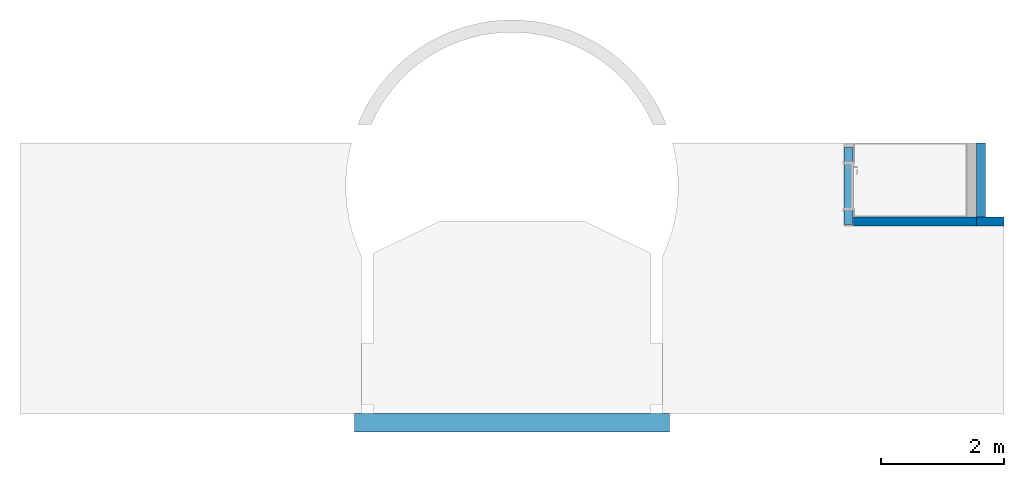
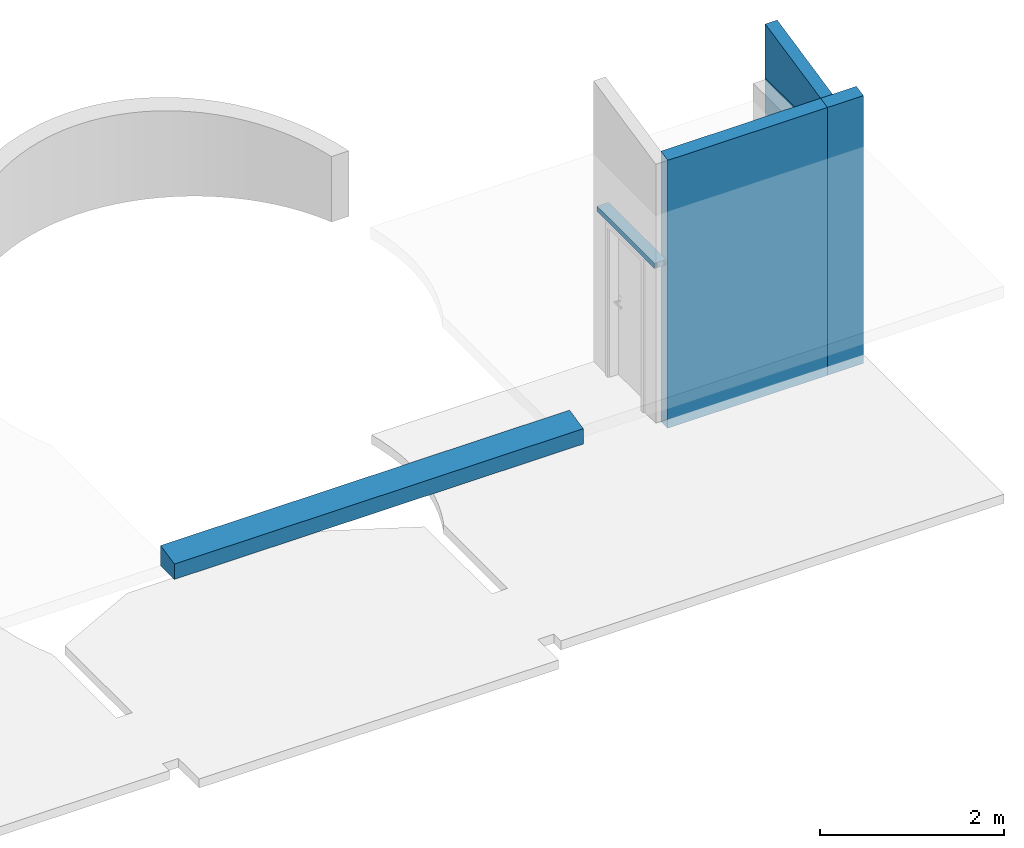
# One storey, part 1 of 5: 5 walls, 1 beam.
"""IFC4 building model written with IfcOpenShell, lengths in millimetres."""

from ifc_helpers import new_model, entity, si_unit, converted_unit, derived_unit, direction, frame, origin_with_axes, place, context, subcontext, project, spatial, polygons, source, transform, mapped, material, constituent, constituent_set, type_object, element, save


model = new_model("IFC4")

# Units and contexts
model_context = context("Model", 3, precision=0.01, world=origin_with_axes(), true_north=direction((0.0, 1.0)))
body_context = subcontext(model_context, "Body", "Model", "MODEL_VIEW")
ifc_project = project(units=[si_unit("LENGTHUNIT", "METRE", prefix="MILLI"), si_unit("AREAUNIT", "SQUARE_METRE"), si_unit("VOLUMEUNIT", "CUBIC_METRE"), converted_unit("PLANEANGLEUNIT", "DEGREE", entity("IfcPlaneAngleMeasure", 0.0174532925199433), si_unit("PLANEANGLEUNIT", "RADIAN"), dimensions=[0, 0, 0, 0, 0, 0, 0]), converted_unit("TIMEUNIT", "Year", entity("IfcTimeMeasure", 31557600.0), si_unit("TIMEUNIT", "SECOND"), dimensions=[0, 0, 1, 0, 0, 0, 0]), si_unit("MASSUNIT", "GRAM", prefix="KILO"), si_unit("THERMODYNAMICTEMPERATUREUNIT", "DEGREE_CELSIUS"), si_unit("LUMINOUSINTENSITYUNIT", "LUMEN"), si_unit("ENERGYUNIT", "JOULE", prefix="MEGA"), derived_unit("THERMALCONDUCTANCEUNIT", [(si_unit("POWERUNIT", "WATT"), 1), (si_unit("LENGTHUNIT", "METRE"), -1), (si_unit("THERMODYNAMICTEMPERATUREUNIT", "KELVIN"), -1)]), derived_unit("SPECIFICHEATCAPACITYUNIT", [(si_unit("ENERGYUNIT", "JOULE"), 1), (si_unit("MASSUNIT", "GRAM", prefix="KILO"), -1), (si_unit("THERMODYNAMICTEMPERATUREUNIT", "KELVIN"), -1)]), derived_unit("MASSDENSITYUNIT", [(si_unit("MASSUNIT", "GRAM", prefix="KILO"), 1), (si_unit("VOLUMEUNIT", "CUBIC_METRE"), -1)])], contexts=[model_context])

# Site, building, storey
site_placement = place(None, origin_with_axes())
site = spatial("IfcSite", under=ifc_project, at=site_placement, Name="Exteriér", CompositionType="ELEMENT")
building_placement = place(site_placement, origin_with_axes())
building = spatial("IfcBuilding", under=site, at=building_placement, Name="Univerzitní lezecké centrum", CompositionType="ELEMENT")
storey_placement = place(building_placement, frame((0.0, 0.0, 9600.000000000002), z_axis=(0.0, 0.0, 1.0), x_axis=(1.0, 0.0, 0.0)))
storey = spatial("IfcBuildingStorey", under=building, at=storey_placement, Name="4.NP", CompositionType="ELEMENT", Elevation=9600.0)

# Beam
beam_type = type_object("IfcBeamType", Name="PTH Překlad KP 11,5 a 14,5", PredefinedType="BEAM")
shared_shape = source(origin_with_axes(), body_context, "Body", "Tessellation", [
    polygons([(-625.0, 44.3486623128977, 71.00000000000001), (-625.0, 0.0, 71.00000000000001), (625.0, 0.0, 71.00000000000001), (625.0, 44.34866231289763, 71.00000000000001), (-625.0, 44.34866231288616, 36.49999605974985), (-625.0, 46.47223501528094, 31.73716465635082), (-625.0, 49.39641603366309, 27.4240948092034), (-625.0, 53.02998777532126, 23.69532943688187), (-625.0, 57.25960374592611, 20.66718452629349), (-625.0, 61.95332430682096, 18.4341207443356), (-625.0, 66.96473243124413, 17.06579680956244), (-625.0, 72.13750107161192, 16.60489654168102), (-625.0, 77.31026966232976, 17.06579737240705), (-625.0, 82.32167763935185, 18.43412185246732), (-625.0, 87.01539795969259, 20.66718614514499), (-625.0, 91.24501360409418, 23.69533151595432), (-625.0, 94.87858494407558, 27.42409728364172), (-625.0, 97.80276549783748, 31.7371674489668), (-625.0, 99.92633768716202, 36.49999908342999), (-625.0, 99.926337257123, 71.00000000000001), (-625.0, 144.274998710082, 71.0), (-625.0, 144.274998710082, 0.0), (-625.0, 0.0, 0.0), (-625.0, 11.4425, 10.49963740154), (-625.0, 33.3325, 10.49963740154), (-625.0, 33.3325, 30.49963740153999), (-625.0, 11.4425, 30.49963740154), (-625.0, 11.4425, 40.5), (-625.0, 33.3325, 40.5), (-625.0, 33.33250000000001, 60.5), (-625.0, 11.4425, 60.5), (-625.0, 132.83136377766, 10.49963740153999), (-625.0, 132.83136377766, 30.49963740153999), (-625.0, 110.94136377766, 30.49963740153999), (-625.0, 110.94136377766, 10.49963740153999), (-625.0, 110.94136377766, 60.49999999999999), (-625.0, 110.94136377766, 40.49999999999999), (-625.0, 132.83136377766, 40.49999999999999), (-625.0, 132.83136377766, 60.49999999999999), (625.0, 0.0, 0.0), (625.0, 144.2749987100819, 0.0), (625.0, 144.2749987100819, 71.0), (625.0, 99.92633725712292, 71.00000000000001), (625.0, 99.92633768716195, 36.49999908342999), (625.0, 97.80276549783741, 31.7371674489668), (625.0, 94.87858494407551, 27.42409728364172), (625.0, 91.24501360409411, 23.69533151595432), (625.0, 87.01539795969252, 20.66718614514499), (625.0, 82.32167763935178, 18.43412185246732), (625.0, 77.31026966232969, 17.06579737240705), (625.0, 72.13750107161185, 16.60489654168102), (625.0, 66.96473243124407, 17.06579680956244), (625.0, 61.95332430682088, 18.4341207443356), (625.0, 57.25960374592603, 20.66718452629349), (625.0, 53.02998777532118, 23.69532943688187), (625.0, 49.39641603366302, 27.4240948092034), (625.0, 46.47223501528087, 31.73716465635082), (625.0, 44.34866231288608, 36.49999605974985), (625.0, 11.44249999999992, 10.49963740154), (625.0, 11.44249999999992, 30.49963740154), (625.0, 33.33249999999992, 30.49963740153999), (625.0, 33.33249999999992, 10.49963740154), (625.0, 11.44249999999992, 40.5), (625.0, 11.44249999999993, 60.5), (625.0, 33.33249999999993, 60.5), (625.0, 33.33249999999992, 40.5), (625.0, 132.8313637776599, 10.49963740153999), (625.0, 110.9413637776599, 10.49963740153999), (625.0, 110.9413637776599, 30.49963740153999), (625.0, 132.8313637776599, 30.49963740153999), (625.0, 110.9413637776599, 60.49999999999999), (625.0, 132.8313637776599, 60.49999999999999), (625.0, 132.8313637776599, 40.49999999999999), (625.0, 110.9413637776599, 40.49999999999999)], [[[1, 2, 3, 4]], [[1, 5, 6, 7, 8, 9, 10, 11, 12, 13, 14, 15, 16, 17, 18, 19, 20, 21, 22, 23, 2], [24, 25, 26, 27], [28, 29, 30, 31], [32, 33, 34, 35], [36, 37, 38, 39]], [[2, 23, 40, 3]], [[4, 3, 40, 41, 42, 43, 44, 45, 46, 47, 48, 49, 50, 51, 52, 53, 54, 55, 56, 57, 58], [59, 60, 61, 62], [63, 64, 65, 66], [67, 68, 69, 70], [71, 72, 73, 74]], [[5, 1, 4, 58]], [[6, 5, 58, 57]], [[7, 6, 57, 56]], [[8, 7, 56, 55]], [[9, 8, 55, 54]], [[10, 9, 54, 53]], [[11, 10, 53, 52]], [[12, 11, 52, 51]], [[13, 12, 51, 50]], [[14, 13, 50, 49]], [[15, 14, 49, 48]], [[16, 15, 48, 47]], [[17, 16, 47, 46]], [[18, 17, 46, 45]], [[19, 18, 45, 44]], [[20, 19, 44, 43]], [[21, 20, 43, 42]], [[22, 21, 42, 41]], [[23, 22, 41, 40]], [[25, 24, 59, 62]], [[26, 25, 62, 61]], [[27, 26, 61, 60]], [[24, 27, 60, 59]], [[29, 28, 63, 66]], [[30, 29, 66, 65]], [[31, 30, 65, 64]], [[28, 31, 64, 63]], [[33, 32, 67, 70]], [[34, 33, 70, 69]], [[35, 34, 69, 68]], [[32, 35, 68, 67]], [[37, 36, 71, 74]], [[38, 37, 74, 73]], [[39, 38, 73, 72]], [[36, 39, 72, 71]]], closed=True),
    polygons([(-625.0, 44.34866231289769, 36.5), (-625.0, 46.47223492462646, 31.73716874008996), (625.0, 46.47223492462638, 31.73716874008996), (625.0, 44.34866231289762, 36.5), (-625.0, 44.3486623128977, 71.00000000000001), (-625.0, 99.926337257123, 71.00000000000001), (-625.0, 99.92633725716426, 36.50000000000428), (-625.0, 97.80276464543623, 31.7371687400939), (-625.0, 94.87858377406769, 27.42409899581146), (-625.0, 91.24501222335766, 23.69533367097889), (-625.0, 87.0153964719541, 20.66718874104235), (-625.0, 82.32167614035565, 18.43412486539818), (-625.0, 77.31026823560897, 17.06580075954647), (-625.0, 72.1374997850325, 16.60490024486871), (-625.0, 66.96473133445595, 17.06580075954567), (-625.0, 61.95332342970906, 18.4341248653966), (-625.0, 57.25960309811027, 20.66718874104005), (-625.0, 53.02998734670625, 23.69533367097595), (-625.0, 49.39641579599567, 27.42409899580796), (-625.0, 78.10749978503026, 42.49999925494), (-625.0, 78.01680207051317, 43.54188832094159), (-625.0, 77.74746473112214, 44.55212011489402), (-625.0, 77.30767144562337, 45.49999925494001), (-625.0, 76.71078511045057, 46.35672491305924), (-625.0, 75.97494181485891, 47.09626591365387), (-625.0, 75.12249978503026, 47.69615167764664), (-625.0, 74.17936004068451, 48.13815497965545), (-625.0, 73.17417940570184, 48.40884577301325), (-625.0, 72.13749978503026, 48.49999925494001), (-625.0, 71.1008201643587, 48.40884577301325), (-625.0, 70.09563952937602, 48.13815497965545), (-625.0, 69.15249978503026, 47.69615167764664), (-625.0, 68.30005775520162, 47.09626591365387), (-625.0, 67.56421445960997, 46.35672491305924), (-625.0, 66.96732812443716, 45.49999925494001), (-625.0, 66.5275348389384, 44.55212011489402), (-625.0, 66.25819749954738, 43.54188832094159), (-625.0, 66.16749978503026, 42.49999925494), (-625.0, 66.25819749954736, 41.45811018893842), (-625.0, 66.52753483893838, 40.44787839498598), (-625.0, 66.96732812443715, 39.49999925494), (-625.0, 67.56421445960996, 38.64327359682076), (-625.0, 68.3000577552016, 37.90373259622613), (-625.0, 69.15249978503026, 37.30384683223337), (-625.0, 70.09563952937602, 36.86184353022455), (-625.0, 71.1008201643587, 36.59115273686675), (-625.0, 72.13749978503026, 36.49999925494), (-625.0, 73.17417940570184, 36.59115273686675), (-625.0, 74.17936004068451, 36.86184353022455), (-625.0, 75.12249978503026, 37.30384683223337), (-625.0, 75.9749418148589, 37.90373259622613), (-625.0, 76.71078511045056, 38.64327359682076), (-625.0, 77.30767144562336, 39.49999925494), (-625.0, 77.74746473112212, 40.44787839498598), (-625.0, 78.01680207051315, 41.45811018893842), (625.0, 49.39641579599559, 27.42409899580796), (625.0, 53.02998734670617, 23.69533367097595), (625.0, 57.25960309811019, 20.66718874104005), (625.0, 61.95332342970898, 18.4341248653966), (625.0, 66.96473133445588, 17.06580075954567), (625.0, 72.13749978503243, 16.60490024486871), (625.0, 77.3102682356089, 17.06580075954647), (625.0, 82.32167614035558, 18.43412486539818), (625.0, 87.01539647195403, 20.66718874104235), (625.0, 91.24501222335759, 23.69533367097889), (625.0, 94.87858377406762, 27.42409899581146), (625.0, 97.80276464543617, 31.7371687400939), (625.0, 99.92633725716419, 36.50000000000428), (625.0, 99.92633725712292, 71.00000000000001), (625.0, 44.34866231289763, 71.00000000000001), (625.0, 78.10749978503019, 42.49999925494), (625.0, 78.01680207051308, 41.45811018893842), (625.0, 77.74746473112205, 40.44787839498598), (625.0, 77.30767144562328, 39.49999925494), (625.0, 76.71078511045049, 38.64327359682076), (625.0, 75.97494181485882, 37.90373259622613), (625.0, 75.12249978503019, 37.30384683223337), (625.0, 74.17936004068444, 36.86184353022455), (625.0, 73.17417940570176, 36.59115273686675), (625.0, 72.13749978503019, 36.49999925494), (625.0, 71.10082016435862, 36.59115273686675), (625.0, 70.09563952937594, 36.86184353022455), (625.0, 69.15249978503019, 37.30384683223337), (625.0, 68.30005775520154, 37.90373259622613), (625.0, 67.56421445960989, 38.64327359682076), (625.0, 66.96732812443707, 39.49999925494), (625.0, 66.52753483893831, 40.44787839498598), (625.0, 66.2581974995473, 41.45811018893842), (625.0, 66.16749978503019, 42.49999925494), (625.0, 66.25819749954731, 43.54188832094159), (625.0, 66.52753483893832, 44.55212011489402), (625.0, 66.96732812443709, 45.49999925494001), (625.0, 67.5642144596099, 46.35672491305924), (625.0, 68.30005775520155, 47.09626591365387), (625.0, 69.15249978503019, 47.69615167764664), (625.0, 70.09563952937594, 48.13815497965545), (625.0, 71.10082016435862, 48.40884577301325), (625.0, 72.13749978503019, 48.49999925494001), (625.0, 73.17417940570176, 48.40884577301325), (625.0, 74.17936004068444, 48.13815497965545), (625.0, 75.12249978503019, 47.69615167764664), (625.0, 75.97494181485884, 47.09626591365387), (625.0, 76.7107851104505, 46.35672491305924), (625.0, 77.3076714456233, 45.49999925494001), (625.0, 77.74746473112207, 44.55212011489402), (625.0, 78.0168020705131, 43.54188832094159)], [[[1, 2, 3, 4]], [[1, 5, 6, 7, 8, 9, 10, 11, 12, 13, 14, 15, 16, 17, 18, 19, 2], [20, 21, 22, 23, 24, 25, 26, 27, 28, 29, 30, 31, 32, 33, 34, 35, 36, 37, 38, 39, 40, 41, 42, 43, 44, 45, 46, 47, 48, 49, 50, 51, 52, 53, 54, 55]], [[2, 19, 56, 3]], [[4, 3, 56, 57, 58, 59, 60, 61, 62, 63, 64, 65, 66, 67, 68, 69, 70], [71, 72, 73, 74, 75, 76, 77, 78, 79, 80, 81, 82, 83, 84, 85, 86, 87, 88, 89, 90, 91, 92, 93, 94, 95, 96, 97, 98, 99, 100, 101, 102, 103, 104, 105, 106]], [[5, 1, 4, 70]], [[6, 5, 70, 69]], [[7, 6, 69, 68]], [[8, 7, 68, 67]], [[9, 8, 67, 66]], [[10, 9, 66, 65]], [[11, 10, 65, 64]], [[12, 11, 64, 63]], [[13, 12, 63, 62]], [[14, 13, 62, 61]], [[15, 14, 61, 60]], [[16, 15, 60, 59]], [[17, 16, 59, 58]], [[18, 17, 58, 57]], [[19, 18, 57, 56]], [[21, 20, 71, 106]], [[22, 21, 106, 105]], [[23, 22, 105, 104]], [[24, 23, 104, 103]], [[25, 24, 103, 102]], [[26, 25, 102, 101]], [[27, 26, 101, 100]], [[28, 27, 100, 99]], [[29, 28, 99, 98]], [[30, 29, 98, 97]], [[31, 30, 97, 96]], [[32, 31, 96, 95]], [[33, 32, 95, 94]], [[34, 33, 94, 93]], [[35, 34, 93, 92]], [[36, 35, 92, 91]], [[37, 36, 91, 90]], [[38, 37, 90, 89]], [[39, 38, 89, 88]], [[40, 39, 88, 87]], [[41, 40, 87, 86]], [[42, 41, 86, 85]], [[43, 42, 85, 84]], [[44, 43, 84, 83]], [[45, 44, 83, 82]], [[46, 45, 82, 81]], [[47, 46, 81, 80]], [[48, 47, 80, 79]], [[49, 48, 79, 78]], [[50, 49, 78, 77]], [[51, 50, 77, 76]], [[52, 51, 76, 75]], [[53, 52, 75, 74]], [[54, 53, 74, 73]], [[55, 54, 73, 72]], [[20, 55, 72, 71]]], closed=True),
    polygons([(-625.0, 66.16749978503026, 42.49999925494), (-625.0, 66.25819749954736, 41.45811018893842), (625.0, 66.2581974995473, 41.45811018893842), (625.0, 66.16749978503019, 42.49999925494), (-625.0, 66.25819749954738, 43.54188832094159), (-625.0, 66.5275348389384, 44.55212011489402), (-625.0, 66.96732812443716, 45.49999925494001), (-625.0, 67.56421445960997, 46.35672491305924), (-625.0, 68.30005775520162, 47.09626591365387), (-625.0, 69.15249978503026, 47.69615167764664), (-625.0, 70.09563952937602, 48.13815497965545), (-625.0, 71.1008201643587, 48.40884577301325), (-625.0, 72.13749978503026, 48.49999925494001), (-625.0, 73.17417940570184, 48.40884577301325), (-625.0, 74.17936004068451, 48.13815497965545), (-625.0, 75.12249978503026, 47.69615167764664), (-625.0, 75.97494181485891, 47.09626591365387), (-625.0, 76.71078511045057, 46.35672491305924), (-625.0, 77.30767144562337, 45.49999925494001), (-625.0, 77.74746473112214, 44.55212011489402), (-625.0, 78.01680207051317, 43.54188832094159), (-625.0, 78.10749978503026, 42.49999925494), (-625.0, 78.01680207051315, 41.45811018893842), (-625.0, 77.74746473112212, 40.44787839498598), (-625.0, 77.30767144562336, 39.49999925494), (-625.0, 76.71078511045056, 38.64327359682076), (-625.0, 75.9749418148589, 37.90373259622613), (-625.0, 75.12249978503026, 37.30384683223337), (-625.0, 74.17936004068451, 36.86184353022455), (-625.0, 73.17417940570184, 36.59115273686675), (-625.0, 72.13749978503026, 36.49999925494), (-625.0, 71.1008201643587, 36.59115273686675), (-625.0, 70.09563952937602, 36.86184353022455), (-625.0, 69.15249978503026, 37.30384683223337), (-625.0, 68.3000577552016, 37.90373259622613), (-625.0, 67.56421445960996, 38.64327359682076), (-625.0, 66.96732812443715, 39.49999925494), (-625.0, 66.52753483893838, 40.44787839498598), (625.0, 66.52753483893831, 40.44787839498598), (625.0, 66.96732812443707, 39.49999925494), (625.0, 67.56421445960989, 38.64327359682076), (625.0, 68.30005775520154, 37.90373259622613), (625.0, 69.15249978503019, 37.30384683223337), (625.0, 70.09563952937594, 36.86184353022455), (625.0, 71.10082016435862, 36.59115273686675), (625.0, 72.13749978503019, 36.49999925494), (625.0, 73.17417940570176, 36.59115273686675), (625.0, 74.17936004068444, 36.86184353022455), (625.0, 75.12249978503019, 37.30384683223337), (625.0, 75.97494181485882, 37.90373259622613), (625.0, 76.71078511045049, 38.64327359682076), (625.0, 77.30767144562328, 39.49999925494), (625.0, 77.74746473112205, 40.44787839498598), (625.0, 78.01680207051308, 41.45811018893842), (625.0, 78.10749978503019, 42.49999925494), (625.0, 78.0168020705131, 43.54188832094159), (625.0, 77.74746473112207, 44.55212011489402), (625.0, 77.3076714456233, 45.49999925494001), (625.0, 76.7107851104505, 46.35672491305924), (625.0, 75.97494181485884, 47.09626591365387), (625.0, 75.12249978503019, 47.69615167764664), (625.0, 74.17936004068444, 48.13815497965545), (625.0, 73.17417940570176, 48.40884577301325), (625.0, 72.13749978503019, 48.49999925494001), (625.0, 71.10082016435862, 48.40884577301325), (625.0, 70.09563952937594, 48.13815497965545), (625.0, 69.15249978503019, 47.69615167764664), (625.0, 68.30005775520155, 47.09626591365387), (625.0, 67.5642144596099, 46.35672491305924), (625.0, 66.96732812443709, 45.49999925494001), (625.0, 66.52753483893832, 44.55212011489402), (625.0, 66.25819749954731, 43.54188832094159)], [[[1, 2, 3, 4]], [[1, 5, 6, 7, 8, 9, 10, 11, 12, 13, 14, 15, 16, 17, 18, 19, 20, 21, 22, 23, 24, 25, 26, 27, 28, 29, 30, 31, 32, 33, 34, 35, 36, 37, 38, 2]], [[2, 38, 39, 3]], [[4, 3, 39, 40, 41, 42, 43, 44, 45, 46, 47, 48, 49, 50, 51, 52, 53, 54, 55, 56, 57, 58, 59, 60, 61, 62, 63, 64, 65, 66, 67, 68, 69, 70, 71, 72]], [[5, 1, 4, 72]], [[6, 5, 72, 71]], [[7, 6, 71, 70]], [[8, 7, 70, 69]], [[9, 8, 69, 68]], [[10, 9, 68, 67]], [[11, 10, 67, 66]], [[12, 11, 66, 65]], [[13, 12, 65, 64]], [[14, 13, 64, 63]], [[15, 14, 63, 62]], [[16, 15, 62, 61]], [[17, 16, 61, 60]], [[18, 17, 60, 59]], [[19, 18, 59, 58]], [[20, 19, 58, 57]], [[21, 20, 57, 56]], [[22, 21, 56, 55]], [[23, 22, 55, 54]], [[24, 23, 54, 53]], [[25, 24, 53, 52]], [[26, 25, 52, 51]], [[27, 26, 51, 50]], [[28, 27, 50, 49]], [[29, 28, 49, 48]], [[30, 29, 48, 47]], [[31, 30, 47, 46]], [[32, 31, 46, 45]], [[33, 32, 45, 44]], [[34, 33, 44, 43]], [[35, 34, 43, 42]], [[36, 35, 42, 41]], [[37, 36, 41, 40]], [[38, 37, 40, 39]]], closed=True),
])
beam_placement = place(storey_placement, frame((7850.112166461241, 3699.999999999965, 2029.999999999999), z_axis=(0.0, 0.0, 1.0), x_axis=(0.0, -1.0, 0.0)))
element("IfcBeam", 1, at=beam_placement, inside=storey, type_object=beam_type, Name="Pk01", PredefinedType="BEAM", context=body_context, shape_type="MappedRepresentation", body=[
    mapped(shared_shape, transform((0.0, 0.0, 0.0))),
])

# Walls
ifc_material_1 = material(Name="Keramické tvárnice nenosné tl. 150 mm")
wall_type_1 = type_object("IfcWallType", Name="Keramické tvárnice nenosné tl. 150 mm 150", PredefinedType="NOTDEFINED")
wall_1_placement = place(storey_placement, frame((10149.85164885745, 4699.999999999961, -120.000000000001), z_axis=(0.0, 0.0, 1.0), x_axis=(0.0, -1.0, 0.0)))
element("IfcWall", 2, at=wall_1_placement, inside=storey, type_object=wall_type_1, material=ifc_material_1, Name="Z062", PredefinedType="NOTDEFINED", context=body_context, shape_type="Tessellation", body=[
    polygons([(299.9999999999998, -150.0000000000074, 3832.904195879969), (299.9999999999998, 0.0, 3832.904195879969), (299.9999999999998, 0.0, 3120.000000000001), (299.9999999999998, -150.000000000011, 3120.000000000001), (1500.000000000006, 0.0, 3577.83632187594), (1500.000000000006, -150.0000000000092, 3577.83632187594), (1500.000000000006, 0.0, 3120.000000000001), (1500.000000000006, -150.0000000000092, 3120.000000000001)], [[[1, 2, 3, 4]], [[5, 2, 1, 6]], [[2, 5, 7, 3]], [[4, 3, 7, 8]], [[6, 1, 4, 8]], [[5, 6, 8, 7]]], closed=True),
])
wall_2_placement = place(storey_placement, frame((10149.85164885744, 4699.999999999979, -120.000000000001), z_axis=(0.0, 0.0, 1.0), x_axis=(0.0, -1.0, 0.0)))
element("IfcWall", 3, at=wall_2_placement, inside=storey, type_object=wall_type_1, material=ifc_material_1, Name="St08", PredefinedType="NOTDEFINED", context=body_context, shape_type="Tessellation", body=[
    polygons([(1500.000000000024, 0.0, 0.0), (1500.000000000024, -150.0000000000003, 0.0), (300.0000000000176, -150.0000000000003, 0.0), (300.0000000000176, 0.0, 0.0), (1500.000000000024, 0.0, 3120.000000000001), (1500.000000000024, -150.0000000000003, 3120.000000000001), (300.0000000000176, -150.0000000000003, 3120.000000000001), (300.0000000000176, 0.0, 3120.000000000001)], [[[1, 2, 3, 4]], [[2, 1, 5, 6]], [[2, 6, 7, 3]], [[8, 4, 3, 7]], [[5, 1, 4, 8]], [[6, 5, 8, 7]]], closed=True),
])
ifc_constituent_1 = constituent(ifc_material_1, Name="Keramické tvárnice nenosné tl. 150 mm")
ifc_constituent_set_1 = constituent_set(constituents=[ifc_constituent_1], Name="!Vnitřní keramická stěna 150 mm - nenosná")
wall_type_2 = type_object("IfcWallType", Name="!Vnitřní keramická stěna 150 mm - nenosná 150", PredefinedType="NOTDEFINED")
wall_3_placement = place(storey_placement, frame((10449.85164885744, 3199.999999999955, -120.000000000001), z_axis=(0.0, 0.0, 1.0), x_axis=(-1.0, 0.0, 0.0)))
element("IfcWall", 4, at=wall_3_placement, inside=storey, type_object=wall_type_2, material=ifc_constituent_set_1, Name="St07", PredefinedType="NOTDEFINED", context=body_context, shape_type="Tessellation", body=[
    polygons([(449.9999999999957, 0.0, 3577.83632187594), (0.0, 0.0, 3577.83632187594), (0.0, 0.0, 0.0), (449.9999999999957, 0.0, 0.0), (0.0, 150.0000000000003, 3545.952837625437), (449.9999999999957, 150.0000000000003, 3545.952837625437), (0.0, 149.9999999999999, 0.0), (449.9999999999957, 149.9999999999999, 0.0)], [[[1, 2, 3, 4]], [[5, 2, 1, 6]], [[2, 5, 7, 3]], [[4, 3, 7, 8]], [[6, 1, 4, 8]], [[5, 6, 8, 7]]], closed=True),
])
ifc_constituent_2 = constituent(ifc_material_1, Name="Keramické tvárnice nenosné tl. 150 mm")
ifc_constituent_set_2 = constituent_set(constituents=[ifc_constituent_2], Name="!Vnitřní keramická stěna 150 mm - nenosná*")
wall_type_3 = type_object("IfcWallType", Name="!Vnitřní keramická stěna 150 mm - nenosná* 150", PredefinedType="NOTDEFINED")
wall_4_placement = place(storey_placement, frame((9999.851648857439, 3199.999999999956, -120.000000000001), z_axis=(0.0, 0.0, 1.0), x_axis=(-1.0, 0.0, 0.0)))
element("IfcWall", 5, at=wall_4_placement, inside=storey, type_object=wall_type_3, material=ifc_constituent_set_2, Name="St07*", PredefinedType="NOTDEFINED", context=body_context, shape_type="Tessellation", body=[
    polygons([(1999.739482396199, 0.0, 3577.83632187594), (0.0, 0.0, 3577.83632187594), (0.0, 0.0, 0.0), (1999.739482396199, 0.0, 0.0), (0.0, 150.0000000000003, 3545.952837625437), (1999.739482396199, 150.0000000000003, 3545.952837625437), (0.0, 149.9999999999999, 0.0), (1999.739482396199, 150.0000000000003, 0.0)], [[[1, 2, 3, 4]], [[5, 2, 1, 6]], [[2, 5, 7, 3]], [[4, 3, 7, 8]], [[6, 1, 4, 8]], [[5, 6, 8, 7]]], closed=True),
])
ifc_material_2 = material(Name="Pórobetonové tvárnice - nenosné")
wall_type_4 = type_object("IfcWallType", Name="Pórobetonové tvárnice - nenosné 300", PredefinedType="NOTDEFINED")
wall_5_placement = place(storey_placement, frame((-110.2478638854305, -299.9999613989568, 2750.000000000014), z_axis=(0.0, 0.0, 1.0), x_axis=(1.0, 0.0, 0.0)))
element("IfcWall", 6, at=wall_5_placement, inside=storey, type_object=wall_type_4, material=ifc_material_2, PredefinedType="NOTDEFINED", context=body_context, shape_type="Tessellation", body=[
    polygons([(0.0, 300.0000000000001, 267.6552797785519), (5120.0, 300.0000000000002, 267.6552797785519), (5120.0, 300.0000000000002, 0.0), (0.0, 300.0000000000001, 0.0), (5120.0, 0.0, 203.8883112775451), (0.0, 0.0, 203.8883112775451), (5120.0, 0.0, 0.0), (0.0, 0.0, 0.0)], [[[1, 2, 3, 4]], [[5, 2, 1, 6]], [[2, 5, 7, 3]], [[7, 8, 4, 3]], [[6, 1, 4, 8]], [[5, 6, 8, 7]]], closed=True),
])

save(model, "model.ifc")
